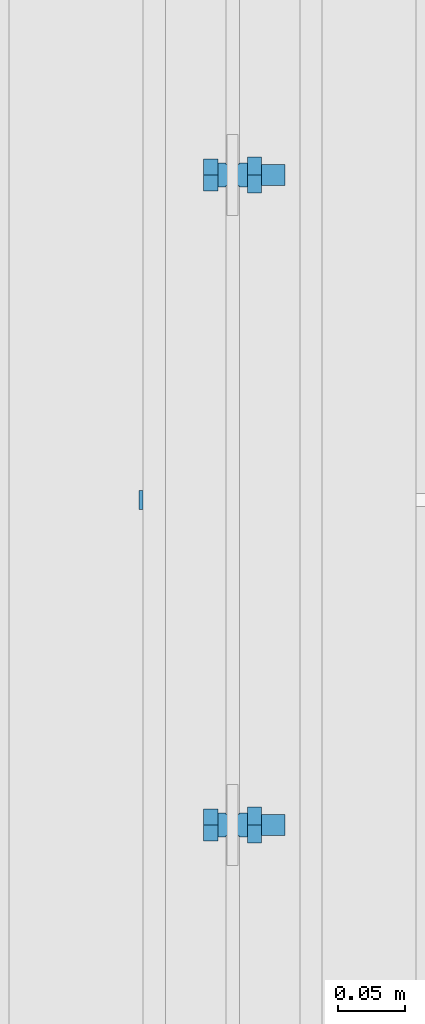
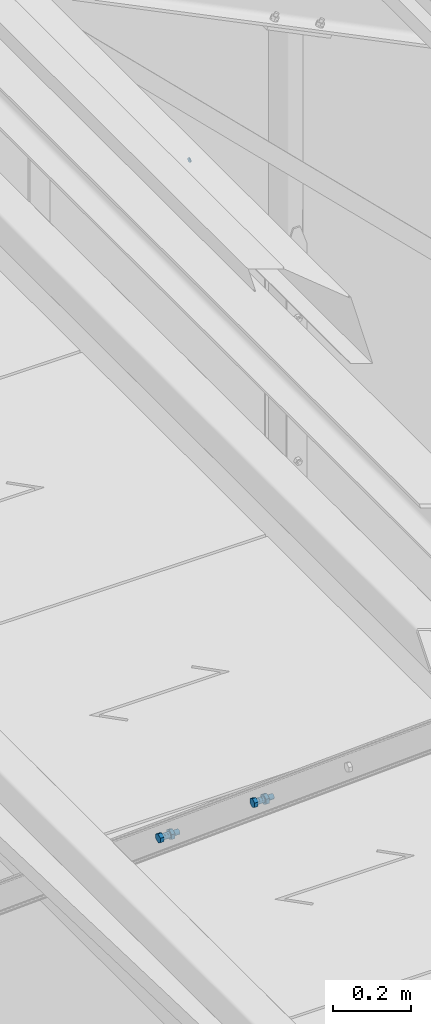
# One storey, part 320 of 362: 3 mechanical fasteners.
"""IFC2X3 building model written with IfcOpenShell, lengths in millimetres."""

from ifc_helpers import new_model, si_unit, frame, origin_with_axes, origin_2d_with_axis, place, context, subcontext, project, spatial, polyline, circle, outline, extrude, source, transform, mapped, material, type_object, element, save


model = new_model("IFC2X3")

# Units and contexts
model_context = context("Model", 3, precision=1e-05, world=origin_with_axes())
body_context = subcontext(model_context, "Body", "Model", "MODEL_VIEW")
ifc_project = project(units=[si_unit("LENGTHUNIT", "METRE", prefix="MILLI"), si_unit("AREAUNIT", "SQUARE_METRE"), si_unit("VOLUMEUNIT", "CUBIC_METRE"), si_unit("MASSUNIT", "GRAM", prefix="KILO"), si_unit("TIMEUNIT", "SECOND"), si_unit("PLANEANGLEUNIT", "RADIAN"), si_unit("SOLIDANGLEUNIT", "STERADIAN"), si_unit("THERMODYNAMICTEMPERATUREUNIT", "DEGREE_CELSIUS"), si_unit("LUMINOUSINTENSITYUNIT", "LUMEN")], contexts=[model_context])

# Site, building, storey
site_placement = place(None, origin_with_axes())
site = spatial("IfcSite", under=ifc_project, at=site_placement, Name="Undefined", CompositionType="ELEMENT")
building_placement = place(site_placement, origin_with_axes())
building = spatial("IfcBuilding", under=site, at=building_placement, Name="Undefined", CompositionType="ELEMENT")
storey_placement = place(building_placement, origin_with_axes())
storey = spatial("IfcBuildingStorey", under=building, at=storey_placement, Name="Undefined", CompositionType="ELEMENT", Elevation=0.0)

# Mechanical fasteners
ifc_material_1 = material(Name="6.8")
mechanical_fastener_type = type_object("IfcMechanicalFastenerType", Name="Bolt assembly")
shared_shape_1 = source(origin_with_axes(), body_context, "Body", "SweptSolid", [
    extrude(circle(Radius=7.0, at=origin_2d_with_axis()), frame((0.0, 0.0, 0.0), z_axis=(0.0, 1.0, 0.0), x_axis=(1.0, 0.0, 0.0)), (0.0, 0.0, 1.0), 3.1),
])
mechanical_fastener_placement = place(storey_placement, frame((34213.4999989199, 5700.00031982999, 10920.8421014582), z_axis=(0.0, -1.0, 0.0), x_axis=(0.0, 0.0, 1.0)))
element("IfcMechanicalFastener", 1, at=mechanical_fastener_placement, inside=storey, type_object=mechanical_fastener_type, material=ifc_material_1, Name="Bolt assembly", NominalDiameter=12.0, NominalLength=3.0, context=body_context, shape_type="MappedRepresentation", body=[
    mapped(shared_shape_1, transform((0.0, 0.0, 0.0))),
])
ifc_material_2 = material(Name="8.8-SB-ZINGUE")
shared_shape_2 = source(origin_with_axes(), body_context, "Body", "SweptSolid", [
    extrude(circle(Radius=9.0, at=origin_2d_with_axis()), frame((0.0, -10.9000000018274, 0.0), z_axis=(0.0, 1.0, 0.0), x_axis=(1.0, 0.0, 0.0)), (0.0, 0.0, 1.0), 6.0),
    extrude(circle(Radius=9.0, at=origin_2d_with_axis()), frame((0.0, 4.9000000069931, 0.0), z_axis=(0.0, 1.0, 0.0), x_axis=(1.0, 0.0, 0.0)), (0.0, 0.0, 1.0), 6.1),
    extrude(circle(Radius=9.0, at=origin_2d_with_axis()), frame((0.0, -3.99999923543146, 0.0), z_axis=(0.0, 1.0, 0.0), x_axis=(1.0, 0.0, 0.0)), (0.0, 0.0, 1.0), 8.0),
    extrude(outline(polyline([(13.85640646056, 0.0), (6.92820323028, 12.0000000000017), (-6.92820323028, 12.0000000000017), (-13.85640646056, 0.0), (-6.92820323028, -12.0000000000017), (6.92820323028, -12.0000000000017), (13.85640646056, 0.0)])), frame((0.0, -21.5600000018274, 0.0), z_axis=(0.0, 1.0, 0.0), x_axis=(1.0, 0.0, 0.0)), (0.0, 0.0, 1.0), 10.56),
    extrude(circle(Radius=8.0, at=origin_2d_with_axis()), frame((0.0, -11.0000000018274, 0.0), z_axis=(0.0, 1.0, 0.0), x_axis=(1.0, 0.0, 0.0)), (0.0, 0.0, 1.0), 50.0),
    extrude(outline(polyline([(15.3344231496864, 0.0), (7.6672115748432, 13.2800000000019), (-7.6672115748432, 13.2800000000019), (-15.3344231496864, 0.0), (-7.6672115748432, -13.2800000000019), (7.6672115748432, -13.2800000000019), (15.3344231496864, 0.0)])), frame((0.0, 11.0000000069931, 0.0), z_axis=(0.0, 1.0, 0.0), x_axis=(1.0, 0.0, 0.0)), (0.0, 0.0, 1.0), 10.56),
])
for number, where, z_axis, x_axis, name in (
    (2, (34280.0, 5458.17853896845, 9038.420920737), (0.0, 1.0, 0.0), (0.0, 0.0, 1.0), "Bolt assembly"),
    (3, (34280.0, 5941.82146222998, 8634.57907981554), (0.0, 1.0, 0.0), (0.0, 0.0, 1.0), "Bolt assembly"),
):
    element("IfcMechanicalFastener", number, at=place(storey_placement, frame(where, z_axis=z_axis, x_axis=x_axis)), inside=storey, type_object=mechanical_fastener_type, material=ifc_material_2, Name=name, NominalDiameter=16.0, NominalLength=50.0, context=body_context, shape_type="MappedRepresentation", body=[
        mapped(shared_shape_2, transform((0.0, 0.0, 0.0))),
    ])

save(model, "model.ifc")
